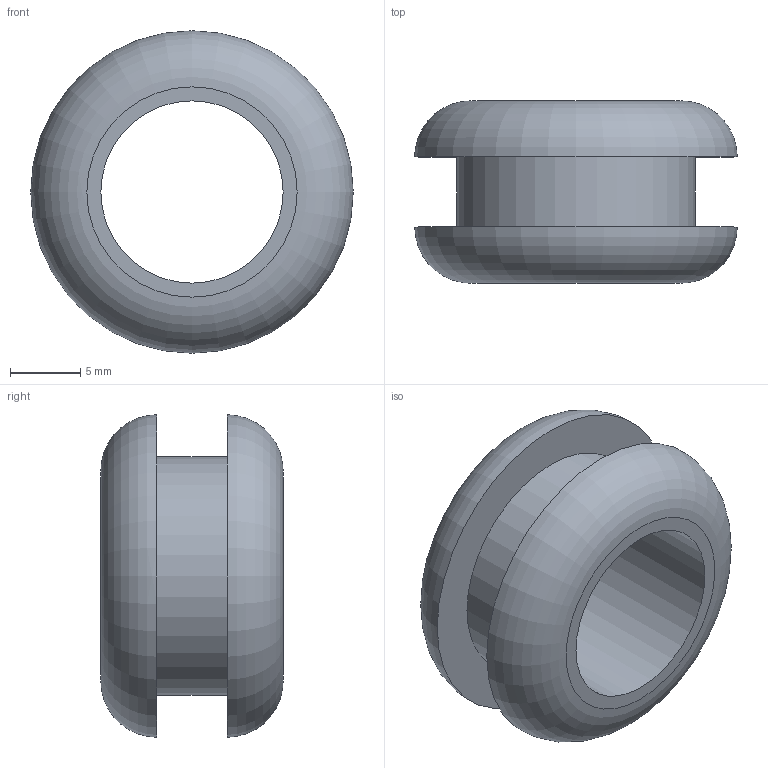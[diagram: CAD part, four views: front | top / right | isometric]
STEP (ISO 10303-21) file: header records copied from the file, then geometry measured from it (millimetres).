
FILE_DESCRIPTION(/* description */ (''),/* implementation_level */ '2;1');
FILE_NAME(/* name */ 'Pos162-Doorvoertule Eriks CR55-CR-4st',/* time_stamp */ '2024-08-06T11:49:44+02:00',/* author */ (''),/* organization */ (''),/* preprocessor_version */ 'ST-DEVELOPER v16.5',/* originating_system */ 'HiCAD 2024 2901.2 Build 361',/* authorisation */ '');
FILE_SCHEMA (('AUTOMOTIVE_DESIGN { 1 0 10303 214 1 1 1 1 }'));
Length unit declared in the file: millimetre
Products named in the file (1): Pos162-Doorvoertule Eriks CR55-CR-4st
Bounding box: 23 x 13 x 23 mm (x, y, z)
Volume: 2275.5 mm3; surface area: 2056.2 mm2
Topology: 1 solids, 1 shells, 8 faces, 12 edges, 8 vertices
Faces by surface type: plane 4, torus 2, cylinder 2
Full cylindrical faces by diameter (mm): 13 x1, 17 x1
Entity records: 266 total; most frequent: DIRECTION 32, CARTESIAN_POINT 24, PRESENTATION_STYLE_ASSIGNMENT 17, COLOUR_RGB 17, DRAUGHTING_PRE_DEFINED_CURVE_FONT 16, CURVE_STYLE 16, OVER_RIDING_STYLED_ITEM 16, ORIENTED_EDGE 16
